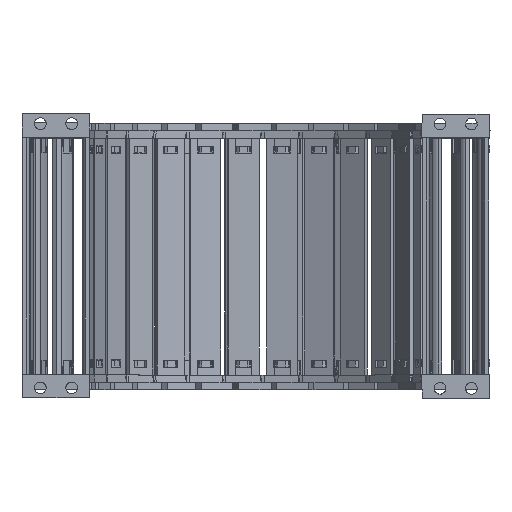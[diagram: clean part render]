
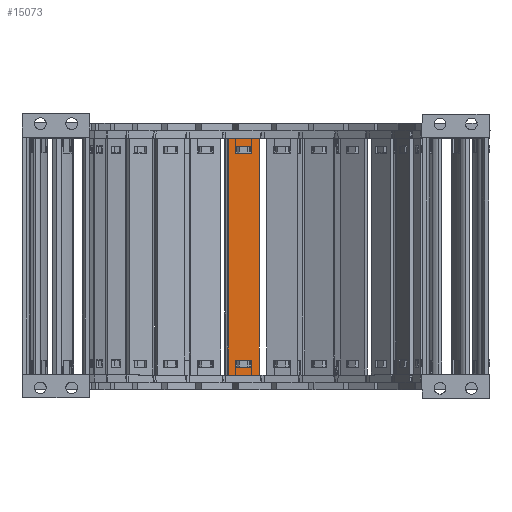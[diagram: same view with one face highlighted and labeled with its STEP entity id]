
A CAD part, top view. The second image highlights one B-rep face of the part: STEP entity #15073.
In plain terms, the highlighted planar face has unit normal (0.048, 0, 0.999).
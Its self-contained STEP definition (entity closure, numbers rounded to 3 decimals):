
#162=FACE_BOUND('',#30481,.T.);
#163=FACE_BOUND('',#30482,.T.);
#164=FACE_BOUND('',#30483,.T.);
#8711=PLANE('',#146224);
#15073=ADVANCED_FACE('',(#162,#163,#164),#8711,.F.);
#30481=EDGE_LOOP('',(#63649,#63650,#63651,#63652));
#30482=EDGE_LOOP('',(#63653,#63654,#63655,#63656));
#30483=EDGE_LOOP('',(#63657,#63658,#63659,#63660));
#63649=ORIENTED_EDGE('',*,*,#104155,.F.);
#63650=ORIENTED_EDGE('',*,*,#104126,.F.);
#63651=ORIENTED_EDGE('',*,*,#104160,.F.);
#63652=ORIENTED_EDGE('',*,*,#104137,.F.);
#63653=ORIENTED_EDGE('',*,*,#104172,.F.);
#63654=ORIENTED_EDGE('',*,*,#104165,.F.);
#63655=ORIENTED_EDGE('',*,*,#104204,.F.);
#63656=ORIENTED_EDGE('',*,*,#104179,.T.);
#63657=ORIENTED_EDGE('',*,*,#104202,.T.);
#63658=ORIENTED_EDGE('',*,*,#104205,.F.);
#63659=ORIENTED_EDGE('',*,*,#104206,.F.);
#63660=ORIENTED_EDGE('',*,*,#104207,.F.);
#86184=VERTEX_POINT('',#224477);
#86185=VERTEX_POINT('',#224479);
#86191=VERTEX_POINT('',#224494);
#86194=VERTEX_POINT('',#224500);
#86211=VERTEX_POINT('',#224557);
#86212=VERTEX_POINT('',#224558);
#86218=VERTEX_POINT('',#224572);
#86221=VERTEX_POINT('',#224580);
#86234=VERTEX_POINT('',#224627);
#86235=VERTEX_POINT('',#224629);
#86236=VERTEX_POINT('',#224634);
#86237=VERTEX_POINT('',#224636);
#104126=EDGE_CURVE('',#86184,#86185,#119852,.T.);
#104137=EDGE_CURVE('',#86194,#86191,#119863,.T.);
#104155=EDGE_CURVE('',#86185,#86194,#119878,.T.);
#104160=EDGE_CURVE('',#86191,#86184,#119883,.T.);
#104165=EDGE_CURVE('',#86211,#86212,#119888,.T.);
#104172=EDGE_CURVE('',#86212,#86218,#119895,.T.);
#104179=EDGE_CURVE('',#86221,#86218,#119902,.T.);
#104202=EDGE_CURVE('',#86235,#86234,#119916,.T.);
#104204=EDGE_CURVE('',#86221,#86211,#119918,.T.);
#104205=EDGE_CURVE('',#86236,#86234,#119919,.T.);
#104206=EDGE_CURVE('',#86237,#86236,#119920,.T.);
#104207=EDGE_CURVE('',#86235,#86237,#119921,.T.);
#119852=LINE('',#224478,#133314);
#119863=LINE('',#224501,#133325);
#119878=LINE('',#224536,#133340);
#119883=LINE('',#224545,#133345);
#119888=LINE('',#224556,#133350);
#119895=LINE('',#224571,#133357);
#119902=LINE('',#224584,#133364);
#119916=LINE('',#224628,#133378);
#119918=LINE('',#224632,#133380);
#119919=LINE('',#224633,#133381);
#119920=LINE('',#224635,#133382);
#119921=LINE('',#224637,#133383);
#133314=VECTOR('',#175489,1.);
#133325=VECTOR('',#175504,1.);
#133340=VECTOR('',#175539,1.);
#133345=VECTOR('',#175548,1.);
#133350=VECTOR('',#175557,1.);
#133357=VECTOR('',#175566,1.);
#133364=VECTOR('',#175575,1.);
#133378=VECTOR('',#175625,1.);
#133380=VECTOR('',#175629,1.);
#133381=VECTOR('',#175630,1.);
#133382=VECTOR('',#175631,1.);
#133383=VECTOR('',#175632,1.);
#146224=AXIS2_PLACEMENT_3D('',#224638,#175633,#175634);
#175489=DIRECTION('',(0.999,0.,-0.048));
#175504=DIRECTION('',(-0.999,0.,0.048));
#175539=DIRECTION('',(0.,1.,0.));
#175548=DIRECTION('',(0.,-1.,0.));
#175557=DIRECTION('',(-0.999,0.,0.048));
#175566=DIRECTION('',(0.,-1.,0.));
#175575=DIRECTION('',(-0.999,0.,0.048));
#175625=DIRECTION('',(0.,-1.,0.));
#175629=DIRECTION('',(0.,1.,0.));
#175630=DIRECTION('',(-0.999,0.,0.048));
#175631=DIRECTION('',(0.,-1.,0.));
#175632=DIRECTION('',(0.999,0.,-0.048));
#175633=DIRECTION('',(-0.048,0.,-0.999));
#175634=DIRECTION('',(-0.999,0.,0.048));
#224477=CARTESIAN_POINT('',(-112.088,-116.53,-104.598));
#224478=CARTESIAN_POINT('',(-112.088,-116.53,-104.598));
#224479=CARTESIAN_POINT('',(-103.947,-116.53,-104.989));
#224494=CARTESIAN_POINT('',(-112.088,-112.882,-104.598));
#224500=CARTESIAN_POINT('',(-103.947,-112.882,-104.989));
#224501=CARTESIAN_POINT('',(-103.947,-112.882,-104.989));
#224536=CARTESIAN_POINT('',(-103.947,-147.96,-104.989));
#224545=CARTESIAN_POINT('',(-112.088,-144.36,-104.598));
#224556=CARTESIAN_POINT('',(-103.947,-3.97,-104.989));
#224557=CARTESIAN_POINT('',(-103.947,-3.97,-104.989));
#224558=CARTESIAN_POINT('',(-112.088,-3.97,-104.598));
#224571=CARTESIAN_POINT('',(-112.088,-3.97,-104.598));
#224572=CARTESIAN_POINT('',(-112.088,-7.618,-104.598));
#224580=CARTESIAN_POINT('',(-103.947,-7.618,-104.989));
#224584=CARTESIAN_POINT('',(-103.947,-7.618,-104.989));
#224627=CARTESIAN_POINT('',(-115.908,-120.5,-104.414));
#224628=CARTESIAN_POINT('',(-115.908,0.,-104.414));
#224629=CARTESIAN_POINT('',(-115.908,0.,-104.414));
#224632=CARTESIAN_POINT('',(-103.947,-7.618,-104.989));
#224633=CARTESIAN_POINT('',(-100.127,-120.5,-105.172));
#224634=CARTESIAN_POINT('',(-100.127,-120.5,-105.172));
#224635=CARTESIAN_POINT('',(-100.127,0.,-105.172));
#224636=CARTESIAN_POINT('',(-100.127,0.,-105.172));
#224637=CARTESIAN_POINT('',(-115.908,0.,-104.414));
#224638=CARTESIAN_POINT('',(-97.969,31.74,-105.276));
